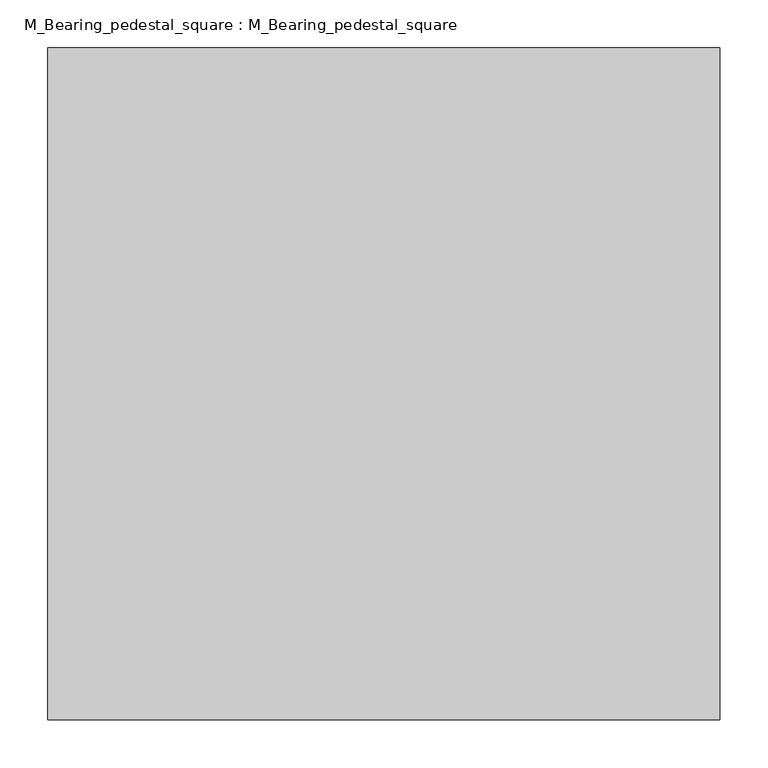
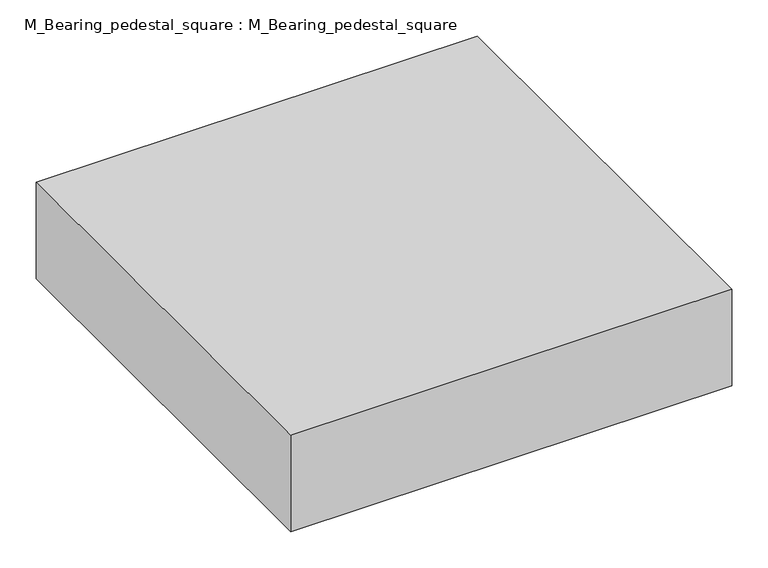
"""IFC4 building model written with IfcOpenShell, lengths in millimetres: proxy geometry, M_Bearing_pedestal_square : M_Bearing_pedestal_square."""

from ifc_helpers import new_model, si_unit, frame, origin, place, context, project, spatial, polyline, outline, extrude, source, transform, mapped, element, save


def m_bearing_pedestal_square_m_bearing_pedestal_square_bb1ba2fc(model_context):
    return source(origin(), model_context, "Body", "SweptSolid", [
        extrude(outline(polyline([(-350.0, -350.0), (-350.0, 350.0), (350.0, 350.0), (350.0, -350.0), (-350.0, -350.0)])), frame((0.0, 0.0, -161.808628), z_axis=(0.0, 0.0, 1.0), x_axis=(1.0, 0.0, 0.0)), (0.0, 0.0, 1.0), 161.808628),
    ])


if __name__ == "__main__":
    model = new_model("IFC4")
    model_context = context("Model", 3, world=origin())
    ifc_project = project(units=[si_unit("LENGTHUNIT", "METRE", prefix="MILLI")], contexts=[model_context])
    site = spatial("IfcSite", under=ifc_project)
    building = spatial("IfcBuilding", under=site)
    placement = place(None, origin())
    m_bearing_pedestal_square_m_bearing_pedestal_square_shape = m_bearing_pedestal_square_m_bearing_pedestal_square_bb1ba2fc(model_context)
    element("IfcBuildingElementProxy", 1, Name="M_Bearing_pedestal_square : M_Bearing_pedestal_square", ObjectType="M_Bearing_pedestal_square : M_Bearing_pedestal_square", at=placement, inside=building, context=model_context, shape_type="MappedRepresentation", body=[
        mapped(m_bearing_pedestal_square_m_bearing_pedestal_square_shape, transform((0.0, 0.0, 0.0), x_axis=(1.0, 0.0, 0.0), y_axis=(0.0, 1.0, 0.0), z_axis=(0.0, 0.0, 1.0))),
    ])
    save(model, "model.ifc")
